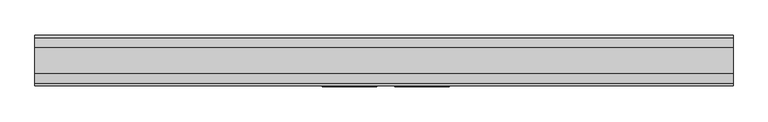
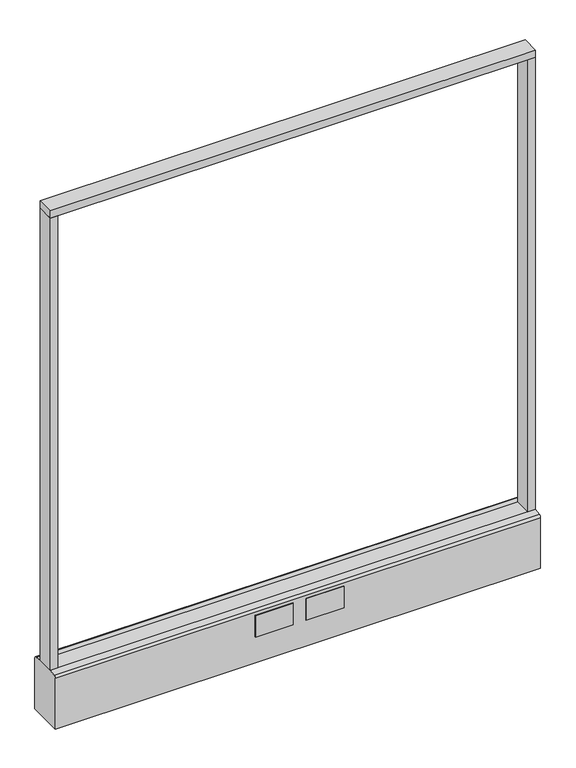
"""IFC4 building model written with IfcOpenShell, lengths in millimetres: furniture geometry."""

from ifc_helpers import new_model, si_unit, point, frame, frame_2d, origin, origin_with_axes, place, context, project, spatial, polyline, circle_curve, trimmed, segment, composite_curve, outline, extrude, source, transform, mapped, element, save


def furniture_5f13d64d(model_context):
    return source(origin(), model_context, "Body", "SweptSolid", [
        extrude(outline(polyline([(609.6, -22.225), (-609.6, -22.225), (-609.6, 22.225), (609.6, 22.225), (609.6, -22.225)])), frame((0.0, 0.0, 1352.55), z_axis=(0.0, 0.0, 1.0), x_axis=(1.0, 0.0, 0.0)), (0.0, 0.0, 1.0), 19.05),
        extrude(outline(composite_curve([segment(trimmed(circle_curve(frame_2d((-533.4, 0.0)), 23.415625), [point((-556.815625, 0.0))], [point((-509.984375, 0.0))], False, "CARTESIAN"), True, "CONTINUOUS"), segment(trimmed(circle_curve(frame_2d((-533.4, 0.0)), 23.415625), [point((-509.984375, 0.0))], [point((-556.815625, 0.0))], False, "CARTESIAN"), True, "CONTINUOUS")], self_intersect=False)), origin_with_axes(), (0.0, 0.0, 1.0), 6.35),
        extrude(outline(composite_curve([segment(trimmed(circle_curve(frame_2d((533.4, 0.0)), 23.415625), [point((509.984375, 0.0))], [point((556.815625, 0.0))], False, "CARTESIAN"), True, "CONTINUOUS"), segment(trimmed(circle_curve(frame_2d((533.4, 0.0)), 23.415625), [point((556.815625, 0.0))], [point((509.984375, 0.0))], False, "CARTESIAN"), True, "CONTINUOUS")], self_intersect=False)), origin_with_axes(), (0.0, 0.0, 1.0), 6.35),
        extrude(outline(polyline([(-590.5500091, -22.225), (-609.6, -22.225), (-609.6, 22.225), (-590.5500091, 22.225), (-590.5500091, -22.225)])), frame((0.0, 0.0, 152.4), z_axis=(0.0, 0.0, 1.0), x_axis=(1.0, 0.0, 0.0)), (0.0, 0.0, 1.0), 1200.15),
        extrude(outline(polyline([(609.6, -22.225), (590.5500091, -22.225), (590.5500091, 22.225), (609.6, 22.225), (609.6, -22.225)])), frame((0.0, 0.0, 152.4), z_axis=(0.0, 0.0, 1.0), x_axis=(1.0, 0.0, 0.0)), (0.0, 0.0, 1.0), 1200.15),
        extrude(outline(composite_curve([segment(polyline([(-22.225, 152.4), (22.225, 152.4), (39.43219, 149.94183)]), True, "CONTINUOUS"), segment(trimmed(circle_curve(frame_2d((38.605678, 144.1562464)), 5.844322), [point((39.43219, 149.94183))], [point((44.45, 144.1562464))], False, "CARTESIAN"), True, "CONTINUOUS"), segment(polyline([(44.45, 144.1562464), (44.45, 9.525), (-44.4433083, 9.525), (-44.4433083, 144.1572033)]), True, "CONTINUOUS"), segment(trimmed(circle_curve(frame_2d((-38.5989863, 144.1572033)), 5.844322), [point((-44.4433083, 144.1572033))], [point((-39.4222979, 149.9432432))], False, "CARTESIAN"), True, "CONTINUOUS"), segment(polyline([(-39.4222979, 149.9432432), (-22.225, 152.4)]), True, "CONTINUOUS")], self_intersect=False)), frame((-609.6, 0.0, 0.0), z_axis=(1.0, 0.0, 0.0), x_axis=(0.0, 1.0, 0.0)), (0.0, 0.0, 1.0), 1219.2),
        extrude(outline(polyline([(114.3, -46.0375), (19.05, -46.0375), (19.05, -44.45), (114.3, -44.45), (114.3, -46.0375)])), frame((0.0, 0.0, 79.1718), z_axis=(0.0, 0.0, 1.0), x_axis=(1.0, 0.0, 0.0)), (0.0, 0.0, 1.0), 57.15),
        extrude(outline(polyline([(-12.7, -46.0375), (-107.95, -46.0375), (-107.95, -44.45), (-12.7, -44.45), (-12.7, -46.0375)])), frame((0.0, 0.0, 79.1718), z_axis=(0.0, 0.0, 1.0), x_axis=(1.0, 0.0, 0.0)), (0.0, 0.0, 1.0), 57.15),
        extrude(outline(composite_curve([segment(trimmed(circle_curve(frame_2d((-533.4, 0.0)), 5.55625), [point((-538.95625, 0.0))], [point((-527.84375, 0.0))], False, "CARTESIAN"), True, "CONTINUOUS"), segment(trimmed(circle_curve(frame_2d((-533.4, 0.0)), 5.55625), [point((-527.84375, 0.0))], [point((-538.95625, 0.0))], False, "CARTESIAN"), True, "CONTINUOUS")], self_intersect=False)), frame((0.0, 0.0, 6.35), z_axis=(0.0, 0.0, 1.0), x_axis=(1.0, 0.0, 0.0)), (0.0, 0.0, 1.0), 3.175),
        extrude(outline(composite_curve([segment(trimmed(circle_curve(frame_2d((533.4, 0.0)), 5.55625), [point((527.84375, 0.0))], [point((538.95625, 0.0))], False, "CARTESIAN"), True, "CONTINUOUS"), segment(trimmed(circle_curve(frame_2d((533.4, 0.0)), 5.55625), [point((538.95625, 0.0))], [point((527.84375, 0.0))], False, "CARTESIAN"), True, "CONTINUOUS")], self_intersect=False)), frame((0.0, 0.0, 6.35), z_axis=(0.0, 0.0, 1.0), x_axis=(1.0, 0.0, 0.0)), (0.0, 0.0, 1.0), 3.175),
    ])


if __name__ == "__main__":
    model = new_model("IFC4")
    model_context = context("Model", 3, world=origin())
    ifc_project = project(units=[si_unit("LENGTHUNIT", "METRE", prefix="MILLI")], contexts=[model_context])
    site = spatial("IfcSite", under=ifc_project)
    building = spatial("IfcBuilding", under=site)
    placement = place(None, origin())
    furniture_shape = furniture_5f13d64d(model_context)
    element("IfcFurniture", 1, ObjectType="HermanMiller_Ethospace_E1109_Frame : 54\"H x 48\"W-H", at=placement, inside=building, context=model_context, shape_type="MappedRepresentation", body=[
        mapped(furniture_shape, transform((0.0, 0.0, 0.0), x_axis=(1.0, 0.0, 0.0), y_axis=(0.0, 1.0, 0.0), z_axis=(0.0, 0.0, 1.0))),
    ])
    save(model, "model.ifc")
